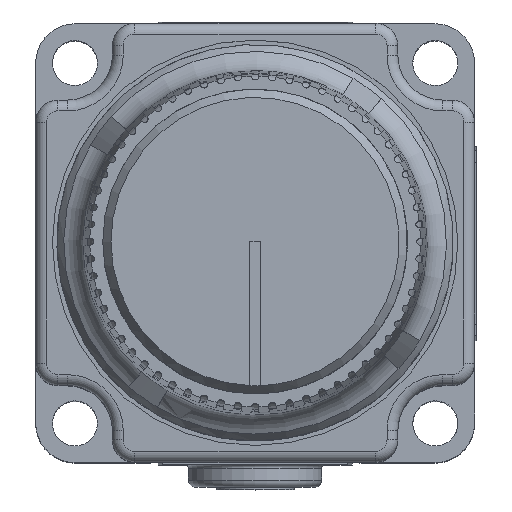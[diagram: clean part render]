
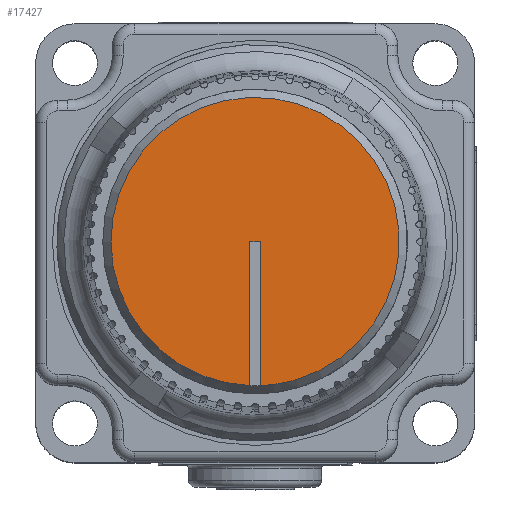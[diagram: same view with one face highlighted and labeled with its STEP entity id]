
A CAD part, top view. The second image highlights one B-rep face of the part: STEP entity #17427.
In plain terms, the highlighted planar face has unit normal (0, 0, 1).
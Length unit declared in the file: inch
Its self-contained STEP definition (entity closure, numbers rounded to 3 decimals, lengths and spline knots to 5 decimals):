
#864=PLANE('',#18992);
#1610=FACE_OUTER_BOUND('',#2622,.T.);
#2622=EDGE_LOOP('',(#13576,#13577,#13578,#13579,#13580));
#3480=CIRCLE('',#18993,0.4);
#3481=CIRCLE('',#18994,0.4);
#4821=LINE('',#29488,#6057);
#4822=LINE('',#29494,#6058);
#4823=LINE('',#29495,#6059);
#6057=VECTOR('',#22916,0.3937);
#6058=VECTOR('',#22921,0.3937);
#6059=VECTOR('',#22922,0.3937);
#7478=VERTEX_POINT('',#29486);
#7479=VERTEX_POINT('',#29487);
#7480=VERTEX_POINT('',#29489);
#7481=VERTEX_POINT('',#29491);
#7482=VERTEX_POINT('',#29493);
#9620=EDGE_CURVE('',#7478,#7479,#4821,.T.);
#9621=EDGE_CURVE('',#7479,#7480,#3480,.T.);
#9622=EDGE_CURVE('',#7480,#7481,#3481,.T.);
#9623=EDGE_CURVE('',#7481,#7482,#4822,.T.);
#9624=EDGE_CURVE('',#7482,#7478,#4823,.T.);
#13576=ORIENTED_EDGE('',*,*,#9620,.T.);
#13577=ORIENTED_EDGE('',*,*,#9621,.T.);
#13578=ORIENTED_EDGE('',*,*,#9622,.T.);
#13579=ORIENTED_EDGE('',*,*,#9623,.T.);
#13580=ORIENTED_EDGE('',*,*,#9624,.T.);
#17427=ADVANCED_FACE('',(#1610),#864,.T.);
#18992=AXIS2_PLACEMENT_3D('',#29485,#22914,#22915);
#18993=AXIS2_PLACEMENT_3D('',#29490,#22917,#22918);
#18994=AXIS2_PLACEMENT_3D('',#29492,#22919,#22920);
#22914=DIRECTION('center_axis',(0.,0.,1.));
#22915=DIRECTION('ref_axis',(1.,0.,0.));
#22916=DIRECTION('',(0.,-1.,0.));
#22917=DIRECTION('center_axis',(0.,0.,
1.));
#22918=DIRECTION('ref_axis',(0.325,0.946,0.));
#22919=DIRECTION('center_axis',(0.,0.,
1.));
#22920=DIRECTION('ref_axis',(0.325,0.946,0.));
#22921=DIRECTION('',(0.,1.,0.));
#22922=DIRECTION('',(1.,0.,0.));
#29485=CARTESIAN_POINT('Origin',(-0.72244,-0.51249,1.82375));
#29486=CARTESIAN_POINT('',(-0.70744,-0.11238,1.82375));
#29487=CARTESIAN_POINT('',(-0.70744,-0.5121,1.82375));
#29488=CARTESIAN_POINT('',(-0.70744,-0.11238,1.82375));
#29489=CARTESIAN_POINT('',(-0.60826,-0.49574,1.82375));
#29490=CARTESIAN_POINT('Origin',(-0.72244,-0.11238,
1.82375));
#29491=CARTESIAN_POINT('',(-0.73744,-0.5121,1.82375));
#29492=CARTESIAN_POINT('Origin',(-0.72244,-0.11238,
1.82375));
#29493=CARTESIAN_POINT('',(-0.73744,-0.11238,1.82375));
#29494=CARTESIAN_POINT('',(-0.73744,-0.5121,1.82375));
#29495=CARTESIAN_POINT('',(-0.73744,-0.11238,1.82375));
